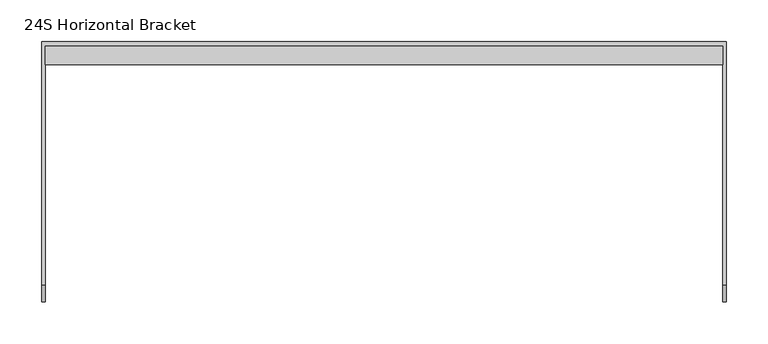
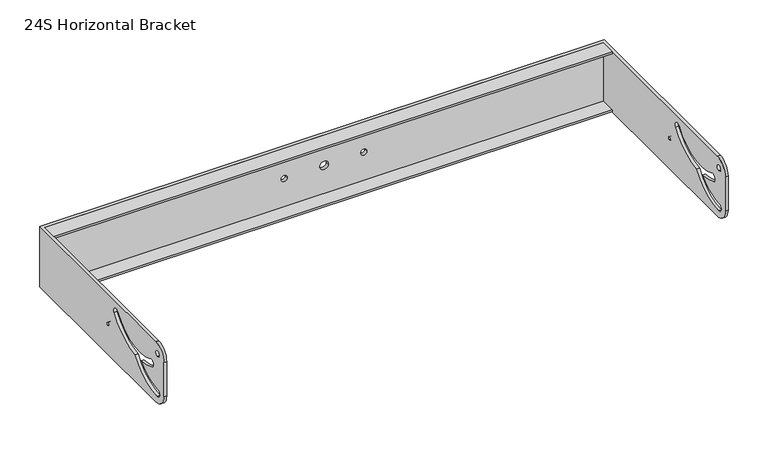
"""IFC4 building model written with IfcOpenShell, lengths in millimetres: proxy geometry, d&b xS-Series 24S Horizontal Bracket : 24S Horizontal Bracket."""

from ifc_helpers import new_model, si_unit, frame, origin, place, context, project, spatial, polyline, circle_curve, outline, extrude, source, transform, mapped, element, save
from ifc_brep_helpers import plane_surface, cylinder_surface, revolved_surface, advanced_brep


def proxy_24s_horizontal_bracket_bb8fb8dd(model_context):
    return source(origin(), model_context, "Body", "SolidModel", [
        extrude(outline(polyline([(-403.5, 256.7393957), (-403.5, 278.7393957), (403.5, 278.7393957), (403.5, 256.7393957), (-403.5, 256.7393957)])), frame((0.0, 0.0, -47.8092214), z_axis=(0.0, 0.0, 1.0), x_axis=(1.0, 0.0, 0.0)), (0.0, 0.0, 1.0), 3.0),
        extrude(outline(polyline([(-403.5, 256.7393957), (-403.5, 278.7393957), (403.5, 278.7393957), (403.5, 256.7393957), (-403.5, 256.7393957)])), frame((0.0, 0.0, 41.1907786), z_axis=(0.0, 0.0, 1.0), x_axis=(1.0, 0.0, 0.0)), (0.0, 0.0, 1.0), 3.0),
        advanced_brep(
        [(-403.5, 278.7393957, 44.1907786), (403.5, 278.7393957, 44.1907786), (403.5, -6.2606043, 44.1907786), (407.5, -6.2606043, 44.1907786), (407.5, 283.7393957, 44.1907786), (-407.5, 283.7393957, 44.1907786), (-407.5, -6.2606043, 44.1907786), (-403.5, -6.2606043, 44.1907786), (-407.5, 283.7393957, -47.8092214), (407.5, 283.7393957, -47.8092214), (407.5, -6.2606043, -47.8092214), (403.5, -6.2606043, -47.8092214), (403.5, 278.7393957, -47.8092214), (-403.5, 278.7393957, -47.8092214), (-403.5, -6.2606043, -47.8092214), (-407.5, -6.2606043, -47.8092214), (-407.5, -26.2606043, 24.1907786), (-407.5, -26.2606043, -27.8092214), (-403.5, -26.2606043, -27.8092214), (-403.5, -26.2606043, 24.1907786), (-403.5, -10.2606043, 24.1907786), (-403.5, -10.2606043, 32.1907786), (-403.5, -10.2421645, -37.3091897), (-403.5, -10.2579371, -26.3092228), (-403.5, 30.8747294, -7.5770229), (-403.5, 3.0846587, -0.4251091), (-403.5, 7.7858712, 9.5196685), (-403.5, 89.3065225, 31.5901932), (-403.5, 98.226093, 25.1568165), (-403.5, 44.9152582, -7.1520493), (-403.5, 113.7393957, -3.8092214), (-403.5, 113.7393957, 0.1907786), (-6.25, 278.7393957, -1.8092214), (6.25, 278.7393957, -1.8092214), (-62.0, 278.7393957, -1.8092214), (-53.0, 278.7393957, -1.8092214), (62.0, 278.7393957, -1.8092214), (53.0, 278.7393957, -1.8092214), (403.5, -26.2606043, -27.8092214), (403.5, -26.2606043, 24.1907786), (403.5, -10.2606043, 32.1907786), (403.5, -10.2606043, 24.1907786), (403.5, -10.2579371, -26.3092228), (403.5, -10.2421645, -37.3091897), (403.5, 44.9152582, -7.1520493), (403.5, 98.2303878, 25.1538533), (403.5, 89.3065225, 31.5901932), (403.5, 7.7858712, 9.5196685), (403.5, 3.0846587, -0.4251091), (403.5, 30.8747294, -7.5770229), (403.5, 113.7393957, 0.1907786), (403.5, 113.7393957, -3.8092214), (407.5, -26.2606043, -27.8092214), (407.5, -26.2606043, 24.1907786), (407.5, -10.2606043, 24.1907786), (407.5, -10.2606043, 32.1907786), (407.5, -10.2421645, -37.3091897), (407.5, -10.2579371, -26.3092228), (407.5, 30.8747294, -7.5770229), (407.5, 3.0846587, -0.4251091), (407.5, 7.7858712, 9.5196685), (407.5, 89.3065225, 31.5901932), (407.5, 98.226093, 25.1568165), (407.5, 44.9152582, -7.1520493), (407.5, 113.7393957, -3.8092214), (407.5, 113.7393957, 0.1907786), (6.25, 283.7393957, -1.8092214), (-6.25, 283.7393957, -1.8092214), (-53.0, 283.7393957, -1.8092214), (-62.0, 283.7393957, -1.8092214), (53.0, 283.7393957, -1.8092214), (62.0, 283.7393957, -1.8092214), (-407.5, -10.2606043, 32.1907786), (-407.5, -10.2606043, 24.1907786), (-407.5, -10.2579371, -26.3092228), (-407.5, -10.2421645, -37.3091897), (-407.5, 44.9152582, -7.1520493), (-407.5, 98.2303878, 25.1538533), (-407.5, 89.3065225, 31.5901932), (-407.5, 7.7858712, 9.5196685), (-407.5, 3.0846587, -0.4251091), (-407.5, 30.8747294, -7.5770229), (-407.5, 113.7393957, 0.1907786), (-407.5, 113.7393957, -3.8092214)],
        [
            (0, 1),
            (1, 2),
            (2, 3),
            (3, 4),
            (4, 5),
            (5, 6),
            (6, 7),
            (7, 0),
            (8, 9),
            (9, 10),
            (10, 11),
            (11, 12),
            (12, 13),
            (13, 14),
            (14, 15),
            (15, 8),
            (16, 17),
            (17, 18),
            (18, 19),
            (19, 16),
            (13, 0),
            (7, 19, circle_curve(frame((-403.5, -6.2606043, 24.1907786), z_axis=(1.0, 0.0, 0.0), x_axis=(0.0, -1.0, 0.0)), 20.0)),
            (18, 14, circle_curve(frame((-403.5, -6.2606043, -27.8092214), z_axis=(1.0, 0.0, 0.0), x_axis=(0.0, -1.0, 0.0)), 20.0)),
            (20, 21, circle_curve(frame((-403.5, -10.2606043, 28.1907786), z_axis=(-1.0, 0.0, 0.0), x_axis=(0.0, 0.0, -1.0)), 4.0)),
            (21, 20, circle_curve(frame((-403.5, -10.2606043, 28.1907786), z_axis=(-1.0, 0.0, 0.0), x_axis=(0.0, 0.0, -1.0)), 4.0)),
            (22, 23, circle_curve(frame((-403.5, -10.2606043, -31.8092214), z_axis=(-1.0, 0.0, 0.0), x_axis=(0.0, 0.0, -1.0)), 5.4999992)),
            (23, 24, circle_curve(frame((-403.5, -10.2315229, 28.1589821), z_axis=(1.0, 0.0, 0.0), x_axis=(0.0, 0.0, -1.0)), 54.4682113)),
            (24, 25, circle_curve(frame((-403.5, 35.6029059, 68.3628341), z_axis=(-1.0, 0.0, 0.0), x_axis=(0.0, 0.0, -1.0)), 76.0869077)),
            (25, 26, circle_curve(frame((-403.5, 5.435265, 4.5472797), z_axis=(-1.0, 0.0, 0.0), x_axis=(0.0, 0.0, -1.0)), 5.5)),
            (26, 27, circle_curve(frame((-403.5, 35.6029059, 68.3628341), z_axis=(1.0, 0.0, 0.0), x_axis=(0.0, 0.0, -1.0)), 65.0869077)),
            (27, 28, circle_curve(frame((-403.5, 93.6990178, 28.2802105), z_axis=(-1.0, 0.0, 0.0), x_axis=(0.0, 0.0, -1.0)), 5.5)),
            (28, 29, circle_curve(frame((-403.5, 35.6029059, 68.3628341), z_axis=(-1.0, 0.0, 0.0), x_axis=(0.0, 0.0, -1.0)), 76.0869076)),
            (29, 22, circle_curve(frame((-403.5, -10.361585, 28.4292755), z_axis=(-1.0, 0.0, 0.0), x_axis=(0.0, 0.0, -1.0)), 65.7385737)),
            (30, 31, circle_curve(frame((-403.5, 113.7393957, -1.8092214), z_axis=(-1.0, 0.0, 0.0), x_axis=(0.0, 0.0, -1.0)), 2.0)),
            (31, 30, circle_curve(frame((-403.5, 113.7393957, -1.8092214), z_axis=(-1.0, 0.0, 0.0), x_axis=(0.0, 0.0, -1.0)), 2.0)),
            (12, 1),
            (32, 33, circle_curve(frame((0.0, 278.7393957, -1.8092214), z_axis=(0.0, 1.0, 0.0), x_axis=(1.0, 0.0, 0.0)), 6.25)),
            (33, 32, circle_curve(frame((0.0, 278.7393957, -1.8092214), z_axis=(0.0, 1.0, 0.0), x_axis=(1.0, 0.0, 0.0)), 6.25)),
            (34, 35, circle_curve(frame((-57.5, 278.7393957, -1.8092214), z_axis=(0.0, 1.0, 0.0), x_axis=(1.0, 0.0, 0.0)), 4.5)),
            (35, 34, circle_curve(frame((-57.5, 278.7393957, -1.8092214), z_axis=(0.0, 1.0, 0.0), x_axis=(1.0, 0.0, 0.0)), 4.5)),
            (36, 37, circle_curve(frame((57.5, 278.7393957, -1.8092214), z_axis=(0.0, 1.0, 0.0), x_axis=(-1.0, 0.0, 0.0)), 4.5)),
            (37, 36, circle_curve(frame((57.5, 278.7393957, -1.8092214), z_axis=(0.0, 1.0, 0.0), x_axis=(-1.0, 0.0, 0.0)), 4.5)),
            (11, 38, circle_curve(frame((403.5, -6.2606043, -27.8092214), z_axis=(-1.0, 0.0, 0.0), x_axis=(0.0, -1.0, 0.0)), 20.0)),
            (38, 39),
            (39, 2, circle_curve(frame((403.5, -6.2606043, 24.1907786), z_axis=(-1.0, 0.0, 0.0), x_axis=(0.0, -1.0, 0.0)), 20.0)),
            (40, 41, circle_curve(frame((403.5, -10.2606043, 28.1907786), z_axis=(1.0, 0.0, 0.0), x_axis=(0.0, 0.0, -1.0)), 4.0)),
            (41, 40, circle_curve(frame((403.5, -10.2606043, 28.1907786), z_axis=(1.0, 0.0, 0.0), x_axis=(0.0, 0.0, -1.0)), 4.0)),
            (42, 43, circle_curve(frame((403.5, -10.2606043, -31.8092214), z_axis=(1.0, 0.0, 0.0), x_axis=(0.0, 0.0, -1.0)), 5.4999992)),
            (43, 44, circle_curve(frame((403.5, -10.361585, 28.4292755), z_axis=(1.0, 0.0, 0.0), x_axis=(0.0, 0.0, -1.0)), 65.7385737)),
            (44, 45, circle_curve(frame((403.5, 35.6029059, 68.3628341), z_axis=(1.0, 0.0, 0.0), x_axis=(0.0, 0.0, -1.0)), 76.0869076)),
            (45, 46, circle_curve(frame((403.5, 93.6990178, 28.2802105), z_axis=(1.0, 0.0, 0.0), x_axis=(0.0, 0.0, -1.0)), 5.5)),
            (46, 47, circle_curve(frame((403.5, 35.6029059, 68.3628341), z_axis=(-1.0, 0.0, 0.0), x_axis=(0.0, 0.0, -1.0)), 65.0869077)),
            (47, 48, circle_curve(frame((403.5, 5.435265, 4.5472797), z_axis=(1.0, 0.0, 0.0), x_axis=(0.0, 0.0, -1.0)), 5.5)),
            (48, 49, circle_curve(frame((403.5, 35.6029059, 68.3628341), z_axis=(1.0, 0.0, 0.0), x_axis=(0.0, 0.0, -1.0)), 76.0869077)),
            (49, 42, circle_curve(frame((403.5, -10.2315229, 28.1589821), z_axis=(-1.0, 0.0, 0.0), x_axis=(0.0, 0.0, -1.0)), 54.4682113)),
            (50, 51, circle_curve(frame((403.5, 113.7393957, -1.8092214), z_axis=(1.0, 0.0, 0.0), x_axis=(0.0, 0.0, -1.0)), 2.0)),
            (51, 50, circle_curve(frame((403.5, 113.7393957, -1.8092214), z_axis=(1.0, 0.0, 0.0), x_axis=(0.0, 0.0, -1.0)), 2.0)),
            (38, 52),
            (52, 53),
            (53, 39),
            (9, 4),
            (3, 53, circle_curve(frame((407.5, -6.2606043, 24.1907786), z_axis=(1.0, 0.0, 0.0), x_axis=(0.0, -1.0, 0.0)), 20.0)),
            (52, 10, circle_curve(frame((407.5, -6.2606043, -27.8092214), z_axis=(1.0, 0.0, 0.0), x_axis=(0.0, -1.0, 0.0)), 20.0)),
            (54, 55, circle_curve(frame((407.5, -10.2606043, 28.1907786), z_axis=(-1.0, 0.0, 0.0), x_axis=(0.0, 0.0, -1.0)), 4.0)),
            (55, 54, circle_curve(frame((407.5, -10.2606043, 28.1907786), z_axis=(-1.0, 0.0, 0.0), x_axis=(0.0, 0.0, -1.0)), 4.0)),
            (56, 57, circle_curve(frame((407.5, -10.2606043, -31.8092214), z_axis=(-1.0, 0.0, 0.0), x_axis=(0.0, 0.0, -1.0)), 5.4999992)),
            (57, 58, circle_curve(frame((407.5, -10.2315229, 28.1589821), z_axis=(1.0, 0.0, 0.0), x_axis=(0.0, 0.0, -1.0)), 54.4682113)),
            (58, 59, circle_curve(frame((407.5, 35.6029059, 68.3628341), z_axis=(-1.0, 0.0, 0.0), x_axis=(0.0, 0.0, -1.0)), 76.0869077)),
            (59, 60, circle_curve(frame((407.5, 5.435265, 4.5472797), z_axis=(-1.0, 0.0, 0.0), x_axis=(0.0, 0.0, -1.0)), 5.5)),
            (60, 61, circle_curve(frame((407.5, 35.6029059, 68.3628341), z_axis=(1.0, 0.0, 0.0), x_axis=(0.0, 0.0, -1.0)), 65.0869077)),
            (61, 62, circle_curve(frame((407.5, 93.6990178, 28.2802105), z_axis=(-1.0, 0.0, 0.0), x_axis=(0.0, 0.0, -1.0)), 5.5)),
            (62, 63, circle_curve(frame((407.5, 35.6029059, 68.3628341), z_axis=(-1.0, 0.0, 0.0), x_axis=(0.0, 0.0, -1.0)), 76.0869076)),
            (63, 56, circle_curve(frame((407.5, -10.361585, 28.4292755), z_axis=(-1.0, 0.0, 0.0), x_axis=(0.0, 0.0, -1.0)), 65.7385737)),
            (64, 65, circle_curve(frame((407.5, 113.7393957, -1.8092214), z_axis=(-1.0, 0.0, 0.0), x_axis=(0.0, 0.0, -1.0)), 2.0)),
            (65, 64, circle_curve(frame((407.5, 113.7393957, -1.8092214), z_axis=(-1.0, 0.0, 0.0), x_axis=(0.0, 0.0, -1.0)), 2.0)),
            (8, 5),
            (66, 67, circle_curve(frame((0.0, 283.7393957, -1.8092214), z_axis=(0.0, -1.0, 0.0), x_axis=(1.0, 0.0, 0.0)), 6.25)),
            (67, 66, circle_curve(frame((0.0, 283.7393957, -1.8092214), z_axis=(0.0, -1.0, 0.0), x_axis=(1.0, 0.0, 0.0)), 6.25)),
            (68, 69, circle_curve(frame((-57.5, 283.7393957, -1.8092214), z_axis=(0.0, -1.0, 0.0), x_axis=(1.0, 0.0, 0.0)), 4.5)),
            (69, 68, circle_curve(frame((-57.5, 283.7393957, -1.8092214), z_axis=(0.0, -1.0, 0.0), x_axis=(1.0, 0.0, 0.0)), 4.5)),
            (70, 71, circle_curve(frame((57.5, 283.7393957, -1.8092214), z_axis=(0.0, -1.0, 0.0), x_axis=(-1.0, 0.0, 0.0)), 4.5)),
            (71, 70, circle_curve(frame((57.5, 283.7393957, -1.8092214), z_axis=(0.0, -1.0, 0.0), x_axis=(-1.0, 0.0, 0.0)), 4.5)),
            (15, 17, circle_curve(frame((-407.5, -6.2606043, -27.8092214), z_axis=(-1.0, 0.0, 0.0), x_axis=(0.0, -1.0, 0.0)), 20.0)),
            (16, 6, circle_curve(frame((-407.5, -6.2606043, 24.1907786), z_axis=(-1.0, 0.0, 0.0), x_axis=(0.0, -1.0, 0.0)), 20.0)),
            (72, 73, circle_curve(frame((-407.5, -10.2606043, 28.1907786), z_axis=(1.0, 0.0, 0.0), x_axis=(0.0, 0.0, -1.0)), 4.0)),
            (73, 72, circle_curve(frame((-407.5, -10.2606043, 28.1907786), z_axis=(1.0, 0.0, 0.0), x_axis=(0.0, 0.0, -1.0)), 4.0)),
            (74, 75, circle_curve(frame((-407.5, -10.2606043, -31.8092214), z_axis=(1.0, 0.0, 0.0), x_axis=(0.0, 0.0, -1.0)), 5.4999992)),
            (75, 76, circle_curve(frame((-407.5, -10.361585, 28.4292755), z_axis=(1.0, 0.0, 0.0), x_axis=(0.0, 0.0, -1.0)), 65.7385737)),
            (76, 77, circle_curve(frame((-407.5, 35.6029059, 68.3628341), z_axis=(1.0, 0.0, 0.0), x_axis=(0.0, 0.0, -1.0)), 76.0869076)),
            (77, 78, circle_curve(frame((-407.5, 93.6990178, 28.2802105), z_axis=(1.0, 0.0, 0.0), x_axis=(0.0, 0.0, -1.0)), 5.5)),
            (78, 79, circle_curve(frame((-407.5, 35.6029059, 68.3628341), z_axis=(-1.0, 0.0, 0.0), x_axis=(0.0, 0.0, -1.0)), 65.0869077)),
            (79, 80, circle_curve(frame((-407.5, 5.435265, 4.5472797), z_axis=(1.0, 0.0, 0.0), x_axis=(0.0, 0.0, -1.0)), 5.5)),
            (80, 81, circle_curve(frame((-407.5, 35.6029059, 68.3628341), z_axis=(1.0, 0.0, 0.0), x_axis=(0.0, 0.0, -1.0)), 76.0869077)),
            (81, 74, circle_curve(frame((-407.5, -10.2315229, 28.1589821), z_axis=(-1.0, 0.0, 0.0), x_axis=(0.0, 0.0, -1.0)), 54.4682113)),
            (82, 83, circle_curve(frame((-407.5, 113.7393957, -1.8092214), z_axis=(1.0, 0.0, 0.0), x_axis=(0.0, 0.0, -1.0)), 2.0)),
            (83, 82, circle_curve(frame((-407.5, 113.7393957, -1.8092214), z_axis=(1.0, 0.0, 0.0), x_axis=(0.0, 0.0, -1.0)), 2.0)),
            (32, 67),
            (66, 33),
            (34, 69),
            (68, 35),
            (36, 71),
            (70, 37),
            (40, 55),
            (54, 41),
            (72, 21),
            (20, 73),
            (42, 57),
            (56, 43),
            (74, 23),
            (22, 75),
            (63, 44),
            (29, 76),
            (49, 58),
            (81, 24),
            (62, 45),
            (28, 77),
            (61, 46),
            (27, 78),
            (60, 47),
            (26, 79),
            (59, 48),
            (25, 80),
            (50, 65),
            (64, 51),
            (82, 31),
            (30, 83),
        ],
        [
            plane_surface(frame((-297.0, -26.2606043, 44.1907786), z_axis=(0.0, 0.0, 1.0), x_axis=(1.0, 0.0, 0.0))),
            plane_surface(frame((-297.0, -26.2606043, -47.8092214), z_axis=(0.0, 0.0, -1.0), x_axis=(-1.0, 0.0, 0.0))),
            plane_surface(frame((-407.5, -26.2606043, 44.1907786), z_axis=(0.0, -1.0, 0.0), x_axis=(0.0, 0.0, -1.0))),
            plane_surface(frame((-403.5, -26.2606043, 44.1907786), z_axis=(1.0, 0.0, 0.0), x_axis=(0.0, 0.0, -1.0))),
            plane_surface(frame((-403.5, 278.7393957, 44.1907786), z_axis=(0.0, -1.0, 0.0), x_axis=(0.0, 0.0, -1.0))),
            plane_surface(frame((403.5, 278.7393957, 44.1907786), z_axis=(-1.0, 0.0, 0.0), x_axis=(0.0, 0.0, -1.0))),
            plane_surface(frame((403.5, -26.2606043, 44.1907786), z_axis=(0.0, -1.0, 0.0), x_axis=(0.0, 0.0, -1.0))),
            plane_surface(frame((407.5, -26.2606043, 44.1907786), z_axis=(1.0, 0.0, 0.0), x_axis=(0.0, 0.0, -1.0))),
            plane_surface(frame((407.5, 283.7393957, 44.1907786), z_axis=(0.0, 1.0, 0.0), x_axis=(0.0, 0.0, -1.0))),
            plane_surface(frame((-407.5, 283.7393957, 44.1907786), z_axis=(-1.0, 0.0, 0.0), x_axis=(0.0, 0.0, -1.0))),
            cylinder_surface(frame((-450.0, -6.2606043, 24.1907786), z_axis=(-1.0, 0.0, 0.0), x_axis=(0.0, -1.0, 0.0)), 20.0),
            cylinder_surface(frame((0.0, -6.2606043, -27.8092214), z_axis=(-1.0, 0.0, 0.0), x_axis=(0.0, -1.0, 0.0)), 20.0),
            revolved_surface(polyline([(6.25, 283.7393957, -1.8092214), (6.25, 278.7393957, -1.8092214)]), (0.0, 238.7393957, -1.8092214), (0.0, 1.0, 0.0)),
            revolved_surface(polyline([(-53.0, 283.7393957, -1.8092214), (-53.0, 278.7393957, -1.8092214)]), (-57.5, 253.7393957, -1.8092214), (0.0, 1.0, 0.0)),
            revolved_surface(polyline([(53.0, 283.7393957, -1.8092214), (53.0, 278.7393957, -1.8092214)]), (57.5, 253.7393957, -1.8092214), (0.0, 1.0, 0.0)),
            revolved_surface(polyline([(407.5, -10.2606043, 24.1907786), (403.5, -10.2606043, 24.1907786)]), (-450.0, -10.2606043, 28.1907786), (1.0, 0.0, 0.0)),
            revolved_surface(polyline([(-403.5, -10.2606043, 24.1907786), (-407.5, -10.2606043, 24.1907786)]), (-450.0, -10.2606043, 28.1907786), (1.0, 0.0, 0.0)),
            revolved_surface(polyline([(407.5, -10.2606043, -37.309220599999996), (403.5, -10.2606043, -37.309220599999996)]), (0.0, -10.2606043, -31.8092214), (1.0, 0.0, 0.0)),
            revolved_surface(polyline([(-403.5, -10.2606043, -37.309220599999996), (-407.5, -10.2606043, -37.309220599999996)]), (0.0, -10.2606043, -31.8092214), (1.0, 0.0, 0.0)),
            revolved_surface(polyline([(407.5, -10.361585, -37.3092982), (403.5, -10.361585, -37.3092982)]), (0.0, -10.361585, 28.4292755), (1.0, 0.0, 0.0)),
            revolved_surface(polyline([(-403.5, -10.361585, -37.3092982), (-407.5, -10.361585, -37.3092982)]), (0.0, -10.361585, 28.4292755), (1.0, 0.0, 0.0)),
            cylinder_surface(frame((0.0, -10.2315229, 28.1589821), z_axis=(-1.0, 0.0, 0.0), x_axis=(0.0, 0.0, -1.0)), 54.4682113),
            revolved_surface(polyline([(407.5, 35.6029059, -7.724073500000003), (403.5, 35.6029059, -7.724073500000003)]), (0.0, 35.6029059, 68.3628341), (1.0, 0.0, 0.0)),
            revolved_surface(polyline([(-403.5, 35.6029059, -7.724073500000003), (-407.5, 35.6029059, -7.724073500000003)]), (0.0, 35.6029059, 68.3628341), (1.0, 0.0, 0.0)),
            revolved_surface(polyline([(407.5, 93.6990178, 22.7802105), (403.5, 93.6990178, 22.7802105)]), (0.0, 93.6990178, 28.2802105), (1.0, 0.0, 0.0)),
            revolved_surface(polyline([(-403.5, 93.6990178, 22.7802105), (-407.5, 93.6990178, 22.7802105)]), (0.0, 93.6990178, 28.2802105), (1.0, 0.0, 0.0)),
            cylinder_surface(frame((0.0, 35.6029059, 68.3628341), z_axis=(-1.0, 0.0, 0.0), x_axis=(0.0, 0.0, -1.0)), 65.0869077),
            revolved_surface(polyline([(407.5, 5.435265, -0.9527203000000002), (403.5, 5.435265, -0.9527203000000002)]), (0.0, 5.435265, 4.5472797), (1.0, 0.0, 0.0)),
            revolved_surface(polyline([(-403.5, 5.435265, -0.9527203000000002), (-407.5, 5.435265, -0.9527203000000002)]), (0.0, 5.435265, 4.5472797), (1.0, 0.0, 0.0)),
            revolved_surface(polyline([(407.5, 35.6029059, -7.724073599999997), (403.5, 35.6029059, -7.724073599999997)]), (0.0, 35.6029059, 68.3628341), (1.0, 0.0, 0.0)),
            revolved_surface(polyline([(-403.5, 35.6029059, -7.724073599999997), (-407.5, 35.6029059, -7.724073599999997)]), (0.0, 35.6029059, 68.3628341), (1.0, 0.0, 0.0)),
            revolved_surface(polyline([(407.5, 113.7393957, -3.8092214), (403.5, 113.7393957, -3.8092214)]), (0.0, 113.7393957, -1.8092214), (1.0, 0.0, 0.0)),
            revolved_surface(polyline([(-403.5, 113.7393957, -3.8092214), (-407.5, 113.7393957, -3.8092214)]), (0.0, 113.7393957, -1.8092214), (1.0, 0.0, 0.0)),
        ],
        [
            (0, [[1, 2, 3, 4, 5, 6, 7, 8]]),
            (1, [[9, 10, 11, 12, 13, 14, 15, 16]]),
            (2, [[17, 18, 19, 20]]),
            (3, [[21, -8, 22, -19, 23, -14], [24, 25], [26, 27, 28, 29, 30, 31, 32, 33], [34, 35]]),
            (4, [[-1, -21, -13, 36], [37, 38], [39, 40], [41, 42]]),
            (5, [[-36, -12, 43, 44, 45, -2], [46, 47], [48, 49, 50, 51, 52, 53, 54, 55], [56, 57]]),
            (6, [[-44, 58, 59, 60]]),
            (7, [[61, -4, 62, -59, 63, -10], [64, 65], [66, 67, 68, 69, 70, 71, 72, 73], [74, 75]]),
            (8, [[-5, -61, -9, 76], [77, 78], [79, 80], [81, 82]]),
            (9, [[-76, -16, 83, -17, 84, -6], [85, 86], [87, 88, 89, 90, 91, 92, 93, 94], [95, 96]]),
            (10, [[-3, -45, -60, -62]]),
            (10, [[-7, -84, -20, -22]]),
            (11, [[-11, -63, -58, -43]]),
            (11, [[-15, -23, -18, -83]]),
            (12, [[97, -77, 98, -37]]),
            (12, [[-97, -38, -98, -78]]),
            (13, [[99, -79, 100, -39]]),
            (13, [[-99, -40, -100, -80]]),
            (14, [[101, -81, 102, -41]]),
            (14, [[-101, -42, -102, -82]]),
            (15, [[103, -64, 104, -46]]),
            (16, [[105, -24, 106, -85]]),
            (15, [[-103, -47, -104, -65]]),
            (16, [[-105, -86, -106, -25]]),
            (17, [[107, -66, 108, -48]]),
            (18, [[109, -26, 110, -87]]),
            (19, [[-108, -73, 111, -49]]),
            (20, [[-110, -33, 112, -88]]),
            (21, [[-107, -55, 113, -67]]),
            (21, [[-109, -94, 114, -27]]),
            (22, [[-111, -72, 115, -50]]),
            (23, [[-112, -32, 116, -89]]),
            (24, [[-115, -71, 117, -51]]),
            (25, [[-116, -31, 118, -90]]),
            (26, [[-117, -70, 119, -52]]),
            (26, [[-118, -30, 120, -91]]),
            (27, [[-119, -69, 121, -53]]),
            (28, [[-120, -29, 122, -92]]),
            (29, [[-113, -54, -121, -68]]),
            (30, [[-114, -93, -122, -28]]),
            (31, [[123, -74, 124, -56]]),
            (32, [[125, -34, 126, -95]]),
            (31, [[-123, -57, -124, -75]]),
            (32, [[-125, -96, -126, -35]]),
        ],
    ),
    ])


if __name__ == "__main__":
    model = new_model("IFC4")
    model_context = context("Model", 3, world=origin())
    ifc_project = project(units=[si_unit("LENGTHUNIT", "METRE", prefix="MILLI")], contexts=[model_context])
    site = spatial("IfcSite", under=ifc_project)
    building = spatial("IfcBuilding", under=site)
    placement = place(None, origin())
    proxy_24s_horizontal_bracket_shape = proxy_24s_horizontal_bracket_bb8fb8dd(model_context)
    element("IfcBuildingElementProxy", 1, Name="d&b xS-Series 24S Horizontal Bracket : 24S Horizontal Bracket", ObjectType="d&b xS-Series 24S Horizontal Bracket : 24S Horizontal Bracket", at=placement, inside=building, context=model_context, shape_type="MappedRepresentation", body=[
        mapped(proxy_24s_horizontal_bracket_shape, transform((0.0, 0.0, 0.0), x_axis=(1.0, 0.0, 0.0), y_axis=(0.0, 1.0, 0.0), z_axis=(0.0, 0.0, 1.0))),
    ])
    save(model, "model.ifc")
